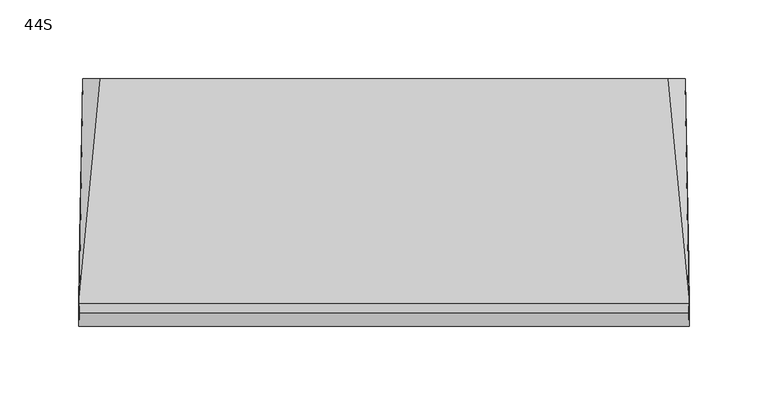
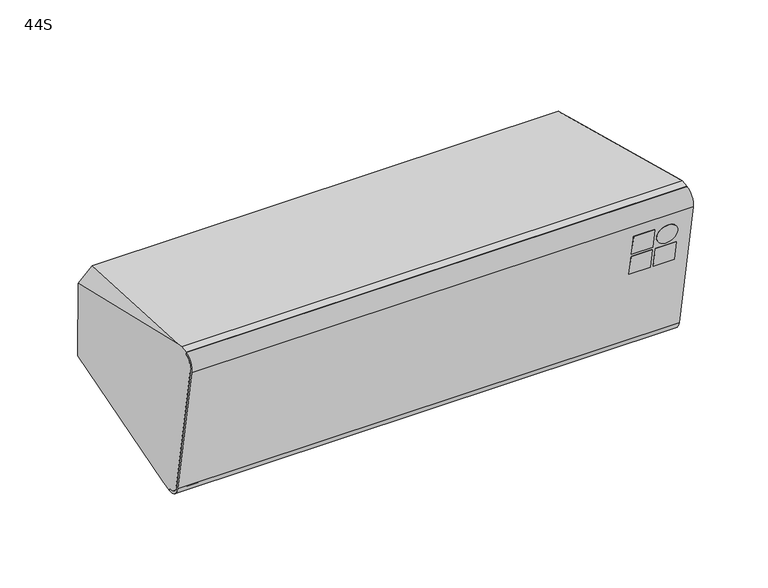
"""IFC4 building model written with IfcOpenShell, lengths in millimetres: proxy geometry, d&b xS-Series 44S Point Source : 44S."""

from ifc_helpers import new_model, si_unit, point, frame, frame_2d, origin, place, context, project, spatial, polyline, circle_curve, ellipse_curve, trimmed, segment, composite_curve, outline, extrude, source, transform, mapped, element, save
from ifc_brep_helpers import plane_surface, cylinder_surface, revolved_surface, advanced_brep


def proxy_44s_43ee14fb(model_context):
    return source(origin(), model_context, "Body", "SolidModel", [
        advanced_brep(
        [(-193.2924342, -53.8838283, -74.4884759), (-193.2924342, -54.2235668, -72.5617234), (-193.4294708, -63.4507785, -66.1007602), (-193.4294708, -82.2184008, 40.3357147), (-193.2918337, -75.7291242, 49.6033621), (-193.2918337, -76.0764205, 51.5729776), (-193.1898069, -70.2363231, 52.6027444), (-193.132384, -66.7384961, 51.9862805), (-190.8800877, 72.3274823, 17.196889), (-191.0574064, 72.3274823, -42.1555592), (-193.132384, -44.7224233, -72.873073), (193.2924342, -54.2235668, -72.5617234), (193.2924342, -53.8838283, -74.4884759), (193.132384, -44.7224233, -72.873073), (191.0574064, 72.3274823, -42.1555592), (190.8800877, 72.3274823, 17.196889), (193.132384, -66.7384961, 51.9862805), (193.1898069, -70.2363231, 52.6027444), (193.2918337, -76.0764205, 51.5729776), (193.2918337, -75.7291242, 49.6033621), (193.4294708, -82.2184008, 40.3357147), (193.4294708, -63.4507785, -66.1007602), (-181.3061997, 72.3274823, -52.2340166), (181.3061997, 72.3274823, -52.2340166), (179.9289467, 72.3274823, 27.4770213), (-179.9289467, 72.3274823, 27.4770213), (-138.5, 72.3274823, 0.6215024), (-138.5, 72.3274823, -25.3784976), (-128.5, 72.3274823, -35.3784976), (-51.5, 72.3274823, -35.3784976), (-41.5, 72.3274823, -25.3784976), (-41.5, 72.3274823, 0.6215024), (-51.5, 72.3274823, 10.6215024), (-128.5, 72.3274823, 10.6215024), (-138.5, 67.3274823, 0.6215024), (-128.5, 67.3274823, 10.6215024), (-51.5, 67.3274823, 10.6215024), (-41.5, 67.3274823, 0.6215024), (-41.5, 67.3274823, -25.3784976), (-51.5, 67.3274823, -35.3784976), (-128.5, 67.3274823, -35.3784976), (-138.5, 67.3274823, -25.3784976)],
        [
            (0, 1),
            (1, 2, ellipse_curve(frame((-193.2924342, -55.606691, -64.7176359), z_axis=(-0.9998520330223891, 0.016940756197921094, 0.0029871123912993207), x_axis=(-0.017202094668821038, -0.984662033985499, -0.17362248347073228)), 7.9662739, 7.9650952)),
            (2, 3),
            (3, 4, ellipse_curve(frame((-193.2918337, -74.3399388, 41.7249001), z_axis=(-0.9998520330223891, 0.016940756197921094, 0.0029871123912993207), x_axis=(-0.017202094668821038, -0.984662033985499, -0.17362248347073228)), 8.0011839, 8.0)),
            (4, 5),
            (5, 6),
            (6, 7),
            (7, 8),
            (8, 9),
            (9, 10),
            (10, 0),
            (11, 12),
            (12, 13),
            (13, 14),
            (14, 15),
            (15, 16),
            (16, 17),
            (17, 18),
            (18, 19),
            (19, 20, ellipse_curve(frame((193.2918337, -74.3399388, 41.7249001), z_axis=(0.9998520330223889, 0.01694075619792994, 0.0029871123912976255), x_axis=(-0.017202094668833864, 0.9846620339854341, 0.17362248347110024)), 8.0011839, 8.0)),
            (20, 21),
            (21, 11, ellipse_curve(frame((193.2924342, -55.606691, -64.7176359), z_axis=(0.9998520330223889, 0.01694075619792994, 0.0029871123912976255), x_axis=(-0.017202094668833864, 0.9846620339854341, 0.17362248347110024)), 7.9662739, 7.9650952)),
            (0, 12),
            (11, 1),
            (21, 2),
            (20, 3),
            (19, 4),
            (18, 5),
            (17, 6),
            (10, 22),
            (22, 23),
            (23, 13),
            (16, 24),
            (24, 25),
            (25, 7),
            (9, 22),
            (23, 14),
            (15, 24),
            (25, 8),
            (26, 27),
            (27, 28, circle_curve(frame((-128.5, 72.3274823, -25.3784976), z_axis=(0.0, -1.0, 0.0), x_axis=(0.0, 0.0, 1.0)), 10.0)),
            (28, 29),
            (29, 30, circle_curve(frame((-51.5, 72.3274823, -25.3784976), z_axis=(0.0, -1.0, 0.0), x_axis=(0.0, 0.0, 1.0)), 10.0)),
            (30, 31),
            (31, 32, circle_curve(frame((-51.5, 72.3274823, 0.6215024), z_axis=(0.0, -1.0, 0.0), x_axis=(0.0, 0.0, 1.0)), 10.0)),
            (32, 33),
            (33, 26, circle_curve(frame((-128.5, 72.3274823, 0.6215024), z_axis=(0.0, -1.0, 0.0), x_axis=(0.0, 0.0, 1.0)), 10.0)),
            (34, 35, circle_curve(frame((-128.5, 67.3274823, 0.6215024), z_axis=(0.0, 1.0, 0.0), x_axis=(0.0, 0.0, 1.0)), 10.0)),
            (35, 36),
            (36, 37, circle_curve(frame((-51.5, 67.3274823, 0.6215024), z_axis=(0.0, 1.0, 0.0), x_axis=(0.0, 0.0, 1.0)), 10.0)),
            (37, 38),
            (38, 39, circle_curve(frame((-51.5, 67.3274823, -25.3784976), z_axis=(0.0, 1.0, 0.0), x_axis=(0.0, 0.0, 1.0)), 10.0)),
            (39, 40),
            (40, 41, circle_curve(frame((-128.5, 67.3274823, -25.3784976), z_axis=(0.0, 1.0, 0.0), x_axis=(0.0, 0.0, 1.0)), 10.0)),
            (41, 34),
            (41, 27),
            (26, 34),
            (40, 28),
            (39, 29),
            (38, 30),
            (37, 31),
            (36, 32),
            (35, 33),
        ],
        [
            plane_surface(frame((-193.8309972, -113.1899198, 81.5842244), z_axis=(-0.9998520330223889, 0.01694075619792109, 0.00298711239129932), x_axis=(0.0, 0.17364817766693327, -0.9848077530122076))),
            plane_surface(frame((190.7119283, 65.3481506, 113.0653033), z_axis=(0.9998520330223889, 0.01694075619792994, 0.0029871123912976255), x_axis=(0.0, 0.17364817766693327, -0.9848077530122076))),
            plane_surface(frame((-207.1452552, -53.8838283, -74.4884759), z_axis=(0.0, -0.9848077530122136, -0.1736481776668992), x_axis=(1.0, 0.0, 0.0))),
            cylinder_surface(frame((207.1452552, -55.606691, -64.7176359), z_axis=(-1.0, 0.0, 0.0), x_axis=(0.0, 0.17364817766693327, -0.9848077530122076)), 7.9650952),
            plane_surface(frame((-207.1452552, -63.4507785, -66.1007602), z_axis=(0.0, -0.9848077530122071, -0.17364817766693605), x_axis=(1.0, 0.0, 0.0))),
            cylinder_surface(frame((207.1452552, -74.3399388, 41.7249001), z_axis=(-1.0, 0.0, 0.0), x_axis=(0.0, 0.17364817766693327, -0.9848077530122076)), 8.0),
            plane_surface(frame((-207.1452552, -75.7291242, 49.6033621), z_axis=(0.0, -0.9848077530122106, -0.17364817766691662), x_axis=(1.0, 0.0, 0.0))),
            plane_surface(frame((-207.1452552, -76.0764205, 51.5729776), z_axis=(0.0, -0.17364817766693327, 0.9848077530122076), x_axis=(1.0, 0.0, 0.0))),
            plane_surface(frame((-207.1452552, -48.0093563, -73.452648), z_axis=(0.0, 0.17364817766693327, -0.9848077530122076), x_axis=(1.0, 0.0, 0.0))),
            plane_surface(frame((0.0, 72.3274823, 27.4770213), z_axis=(0.0, 0.17356696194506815, 0.9848220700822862), x_axis=(-1.0, 0.0, 0.0))),
            plane_surface(frame((-186.6967137, 84.7836622, -43.1654853), z_axis=(-0.7053631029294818, 0.19160270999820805, -0.6824597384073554), x_axis=(0.7071067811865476, 0.12278780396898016, -0.6963642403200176))),
            plane_surface(frame((186.6967137, 84.7836622, -43.1654853), z_axis=(0.7053631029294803, 0.19160270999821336, -0.6824597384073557), x_axis=(0.7071067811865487, -0.12278780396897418, 0.6963642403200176))),
            plane_surface(frame((186.6967137, 73.5026927, 20.812072), z_axis=(0.6719558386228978, 0.1899547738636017, 0.7158159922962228), x_axis=(-0.7071067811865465, -0.12278780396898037, 0.6963642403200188))),
            plane_surface(frame((-186.6967137, 73.5026927, 20.812072), z_axis=(-0.6719558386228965, 0.18995477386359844, 0.7158159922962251), x_axis=(-0.7071067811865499, 0.12278780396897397, -0.6963642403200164))),
            plane_surface(frame((-250.0, 72.3274823, -69.7587976), z_axis=(0.0, 1.0, 0.0), x_axis=(1.0, 0.0, 0.0))),
            plane_surface(frame((-138.5, 67.3274823, -52.2340166), z_axis=(0.0, 1.0, 0.0), x_axis=(0.0, 0.0, -1.0))),
            plane_surface(frame((-138.5, 67.3274823, 0.6215024), z_axis=(1.0, 0.0, 0.0), x_axis=(0.0, 1.0, 0.0))),
            revolved_surface(polyline([(-128.5, 67.3274823, -15.3784976), (-128.5, 72.3274823, -15.3784976)]), (-128.5, 72.3274823, -25.3784976), (0.0, -1.0, 0.0)),
            plane_surface(frame((-128.5, 67.3274823, -35.3784976), z_axis=(0.0, 0.0, 1.0), x_axis=(0.0, 1.0, 0.0))),
            revolved_surface(polyline([(-51.5, 67.3274823, -15.3784976), (-51.5, 72.3274823, -15.3784976)]), (-51.5, 72.3274823, -25.3784976), (0.0, -1.0, 0.0)),
            plane_surface(frame((-41.5, 67.3274823, -25.3784976), z_axis=(-1.0, 0.0, 0.0), x_axis=(0.0, 1.0, 0.0))),
            revolved_surface(polyline([(-51.5, 67.3274823, 10.6215024), (-51.5, 72.3274823, 10.6215024)]), (-51.5, 72.3274823, 0.6215024), (0.0, -1.0, 0.0)),
            plane_surface(frame((-51.5, 67.3274823, 10.6215024), z_axis=(0.0, 0.0, -1.0), x_axis=(0.0, 1.0, 0.0))),
            revolved_surface(polyline([(-128.5, 67.3274823, 10.6215024), (-128.5, 72.3274823, 10.6215024)]), (-128.5, 72.3274823, 0.6215024), (0.0, -1.0, 0.0)),
        ],
        [
            (0, [[1, 2, 3, 4, 5, 6, 7, 8, 9, 10, 11]]),
            (1, [[12, 13, 14, 15, 16, 17, 18, 19, 20, 21, 22]]),
            (2, [[23, -12, 24, -1]]),
            (3, [[-24, -22, 25, -2]]),
            (4, [[-25, -21, 26, -3]]),
            (5, [[-26, -20, 27, -4]]),
            (6, [[-27, -19, 28, -5]]),
            (7, [[-28, -18, 29, -6]]),
            (8, [[-23, -11, 30, 31, 32, -13]]),
            (9, [[-29, -17, 33, 34, 35, -7]]),
            (10, [[-30, -10, 36]]),
            (11, [[-32, 37, -14]]),
            (12, [[-33, -16, 38]]),
            (13, [[-35, 39, -8]]),
            (14, [[-31, -36, -9, -39, -34, -38, -15, -37], [40, 41, 42, 43, 44, 45, 46, 47]]),
            (15, [[48, 49, 50, 51, 52, 53, 54, 55]]),
            (16, [[-55, 56, -40, 57]]),
            (17, [[-54, 58, -41, -56]]),
            (18, [[-53, 59, -42, -58]]),
            (19, [[-52, 60, -43, -59]]),
            (20, [[-51, 61, -44, -60]]),
            (21, [[-50, 62, -45, -61]]),
            (22, [[-49, 63, -46, -62]]),
            (23, [[-48, -57, -47, -63]]),
        ],
    ),
        extrude(outline(polyline([(0.0, -16.3333333), (0.0, 0.0), (5.0, 0.0), (5.0, -16.3333333), (0.0, -16.3333333)])), frame((148.4644806, -79.6496555, 14.0490863), z_axis=(0.0, -0.17364817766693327, 0.9848077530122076), x_axis=(0.0, 0.9848077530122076, 0.17364817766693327)), (0.0, 0.0, 1.0), 16.3333333),
        extrude(outline(polyline([(0.0, -16.3333333), (0.0, 0.0), (4.9999999, 0.0), (4.9999999, -16.3333333), (0.0, -16.3333333)])), frame((148.4644806, -76.4082228, -4.3339917), z_axis=(0.0, -0.17364817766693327, 0.9848077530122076), x_axis=(0.0, 0.9848077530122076, 0.17364817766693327)), (0.0, 0.0, 1.0), 16.3333333),
        extrude(outline(polyline([(0.0, -16.3333333), (0.0, 0.0), (4.9999999, 0.0), (4.9999999, -16.3333333), (0.0, -16.3333333)])), frame((167.1311473, -76.4082228, -4.3339917), z_axis=(0.0, -0.17364817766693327, 0.9848077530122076), x_axis=(0.0, 0.9848077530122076, 0.17364817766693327)), (0.0, 0.0, 1.0), 16.3333333),
        extrude(outline(composite_curve([segment(trimmed(circle_curve(frame_2d((36.1666666, -8.1666667)), 8.1666667), [point((44.3333333, -8.1666667))], [point((28.0, -8.1666667))], False, "CARTESIAN"), True, "CONTINUOUS"), segment(trimmed(circle_curve(frame_2d((36.1666666, -8.1666667)), 8.1666667), [point((28.0, -8.1666667))], [point((44.3333333, -8.1666667))], False, "CARTESIAN"), True, "CONTINUOUS")], self_intersect=False)), frame((139.1311473, -79.6496555, 14.0490863), z_axis=(0.0, 0.9848077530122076, 0.17364817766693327), x_axis=(1.0, 0.0, 0.0)), (0.0, 0.0, 1.0), 5.0),
        advanced_brep(
        [(-193.4294708, -82.2184008, 40.3357147), (-193.4294708, -63.4507785, -66.1007602), (-193.2924342, -54.2235668, -72.5617234), (-193.2924342, -53.8838283, -74.4884759), (-193.4644806, -65.4683876, -66.3768802), (-193.4644806, -84.2223908, 39.9823572), (-193.2918337, -76.0824817, 51.6073522), (-193.2918337, -75.7291242, 49.6033621), (193.4294708, -63.4507785, -66.1007602), (193.4294708, -82.2184008, 40.3357147), (193.2918337, -75.7291242, 49.6033621), (193.2918337, -76.0824817, 51.6073522), (193.4644806, -84.2223908, 39.9823572), (193.4644806, -65.4683876, -66.3768802), (193.2924342, -53.8838283, -74.4884759), (193.2924342, -54.2235668, -72.5617234)],
        [
            (0, 1),
            (1, 2, ellipse_curve(frame((-193.2924342, -55.606691, -64.7176359), z_axis=(0.9998520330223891, -0.016940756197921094, -0.0029871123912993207), x_axis=(0.017202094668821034, 0.9846620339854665, 0.1736224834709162)), 7.9662739, 7.9650952)),
            (2, 3),
            (3, 4, ellipse_curve(frame((-193.2924342, -55.6203101, -64.6403984), z_axis=(-0.9998520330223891, 0.016940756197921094, 0.0029871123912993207), x_axis=(-0.017202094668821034, -0.9846620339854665, -0.1736224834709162)), 10.0014799, 10.0)),
            (4, 5),
            (5, 6, ellipse_curve(frame((-193.2918337, -74.3399388, 41.7249001), z_axis=(-0.9998520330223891, 0.016940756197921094, 0.0029871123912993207), x_axis=(-0.017202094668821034, -0.9846620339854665, -0.1736224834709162)), 10.0363899, 10.0349048)),
            (6, 7),
            (7, 0, ellipse_curve(frame((-193.2918337, -74.3399388, 41.7249001), z_axis=(0.9998520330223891, -0.016940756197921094, -0.0029871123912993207), x_axis=(0.017202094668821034, 0.9846620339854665, 0.1736224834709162)), 8.0011839, 8.0)),
            (8, 9),
            (9, 10, ellipse_curve(frame((193.2918337, -74.3399388, 41.7249001), z_axis=(-0.9998520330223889, -0.01694075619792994, -0.0029871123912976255), x_axis=(0.017202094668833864, -0.9846620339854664, -0.1736224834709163)), 8.0011839, 8.0)),
            (10, 11),
            (11, 12, ellipse_curve(frame((193.2918337, -74.3399388, 41.7249001), z_axis=(0.9998520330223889, 0.01694075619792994, 0.0029871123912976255), x_axis=(-0.017202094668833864, 0.9846620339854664, 0.1736224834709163)), 10.0363899, 10.0349048)),
            (12, 13),
            (13, 14, ellipse_curve(frame((193.2924342, -55.6203101, -64.6403984), z_axis=(0.9998520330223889, 0.01694075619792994, 0.0029871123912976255), x_axis=(-0.017202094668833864, 0.9846620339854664, 0.1736224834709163)), 10.0014799, 10.0)),
            (14, 15),
            (15, 8, ellipse_curve(frame((193.2924342, -55.606691, -64.7176359), z_axis=(-0.9998520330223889, -0.01694075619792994, -0.0029871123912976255), x_axis=(0.017202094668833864, -0.9846620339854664, -0.1736224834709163)), 7.9662739, 7.9650952)),
            (0, 9),
            (8, 1),
            (15, 2),
            (14, 3),
            (13, 4),
            (12, 5),
            (11, 6),
            (10, 7),
        ],
        [
            plane_surface(frame((-193.8309972, -113.1899198, 81.5842244), z_axis=(-0.9998520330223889, 0.01694075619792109, 0.00298711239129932), x_axis=(0.0, 0.17364817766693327, -0.9848077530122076))),
            plane_surface(frame((190.7119283, 65.3481506, 113.0653033), z_axis=(0.9998520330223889, 0.01694075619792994, 0.0029871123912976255), x_axis=(0.0, 0.17364817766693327, -0.9848077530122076))),
            plane_surface(frame((-202.5, -82.2184008, 40.3357147), z_axis=(0.0, 0.9848077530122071, 0.17364817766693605), x_axis=(1.0, 0.0, 0.0))),
            revolved_surface(polyline([(193.4294708, -56.98981526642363, -56.87354839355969), (-193.4294708, -56.98981526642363, -56.87354839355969)]), (202.5, -55.606691, -64.7176359), (1.0, 0.0, 0.0)),
            plane_surface(frame((-202.5, -54.2235668, -72.5617234), z_axis=(0.0, 0.9848077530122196, 0.17364817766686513), x_axis=(1.0, 0.0, 0.0))),
            cylinder_surface(frame((202.5, -55.6203101, -64.6403984), z_axis=(-1.0, 0.0, 0.0), x_axis=(0.0, -0.17364817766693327, 0.9848077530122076)), 10.0),
            plane_surface(frame((-202.5, -65.4683876, -66.3768802), z_axis=(0.0, -0.984807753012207, -0.17364817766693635), x_axis=(1.0, 0.0, 0.0))),
            cylinder_surface(frame((202.5, -74.3399388, 41.7249001), z_axis=(-1.0, 0.0, 0.0), x_axis=(0.0, -0.17364817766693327, 0.9848077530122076)), 10.0349048),
            plane_surface(frame((-202.5, -76.0824817, 51.6073522), z_axis=(0.0, 0.9848077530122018, 0.17364817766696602), x_axis=(1.0, 0.0, 0.0))),
            revolved_surface(polyline([(193.42947082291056, -75.72912422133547, 49.60336212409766), (-193.42947082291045, -75.72912422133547, 49.60336212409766)]), (202.5, -74.3399388, 41.7249001), (1.0, 0.0, 0.0)),
        ],
        [
            (0, [[1, 2, 3, 4, 5, 6, 7, 8]]),
            (1, [[9, 10, 11, 12, 13, 14, 15, 16]]),
            (2, [[17, -9, 18, -1]]),
            (3, [[-18, -16, 19, -2]]),
            (4, [[-19, -15, 20, -3]]),
            (5, [[-20, -14, 21, -4]]),
            (6, [[-21, -13, 22, -5]]),
            (7, [[-22, -12, 23, -6]]),
            (8, [[-23, -11, 24, -7]]),
            (9, [[-17, -8, -24, -10]]),
        ],
    ),
    ])


if __name__ == "__main__":
    model = new_model("IFC4")
    model_context = context("Model", 3, world=origin())
    ifc_project = project(units=[si_unit("LENGTHUNIT", "METRE", prefix="MILLI")], contexts=[model_context])
    site = spatial("IfcSite", under=ifc_project)
    building = spatial("IfcBuilding", under=site)
    placement = place(None, origin())
    proxy_44s_shape = proxy_44s_43ee14fb(model_context)
    element("IfcBuildingElementProxy", 1, Name="d&b xS-Series 44S Point Source : 44S", ObjectType="d&b xS-Series 44S Point Source : 44S", at=placement, inside=building, context=model_context, shape_type="MappedRepresentation", body=[
        mapped(proxy_44s_shape, transform((0.0, 0.0, 0.0), x_axis=(1.0, 0.0, 0.0), y_axis=(0.0, 1.0, 0.0), z_axis=(0.0, 0.0, 1.0))),
    ])
    save(model, "model.ifc")
